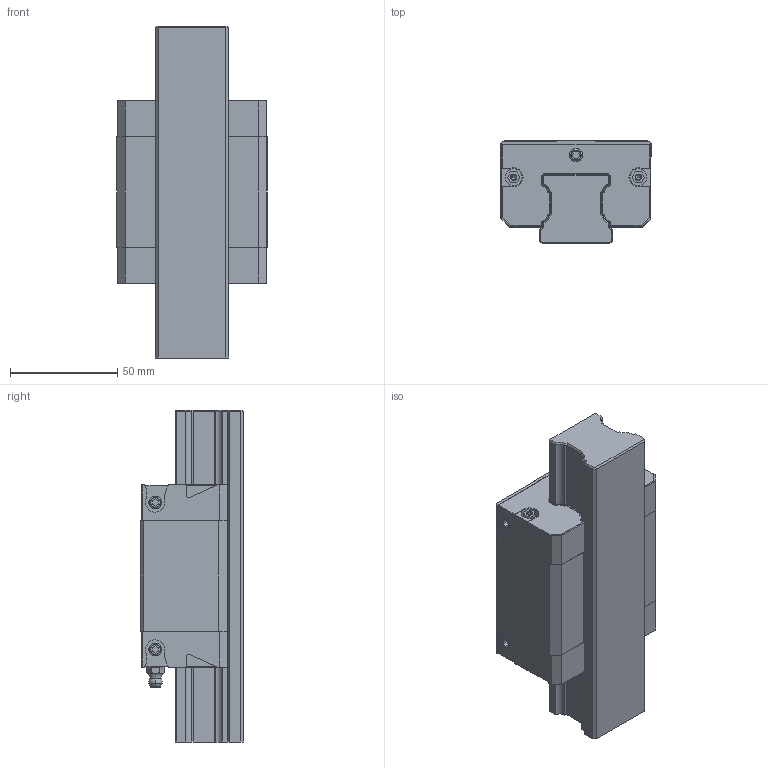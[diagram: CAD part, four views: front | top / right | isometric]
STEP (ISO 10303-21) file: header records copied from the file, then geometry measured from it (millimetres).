
FILE_DESCRIPTION((''),'2;1');
FILE_NAME('KWD_035_SKS_CS__ASM','2021-10-14T07:15:40',('ac91sw'),(''),'CREO PARAMETRIC BY PTC INC, 2020044','CREO PARAMETRIC BY PTC INC, 2020044','');
FILE_SCHEMA(('AUTOMOTIVE_DESIGN { 1 0 10303 214 1 1 1 1 }'));
Length unit declared in the file: millimetre
Products named in the file (7): KWD_035_SKS_CS__SKEL; R201030101; R200130102_Z; R343706101_Z; KWD_035_SKS_CS__PSF; R341700802_Z; KWD_035_SKS_CS__ASM
Assembly tree (11 placements, depth 2):
  KWD_035_SKS_CS__ASM
    KWD_035_SKS_CS__SKEL
    R201030101
    R200130102_Z  x2
    R343706101_Z  x5
    KWD_035_SKS_CS__PSF
    R341700802_Z
Bounding box: 70 x 48 x 154.5 mm (x, y, z)
Volume: 293595.5 mm3; surface area: 67363.8 mm2
Topology: 10 solids, 22 shells, 494 faces, 1266 edges, 804 vertices
Faces by surface type: plane 290, cylinder 134, cone 64, torus 4, sphere 2
Entity records: 15926 total; most frequent: CARTESIAN_POINT 1853, DIRECTION 1548, ORIENTED_EDGE 1468, PROPERTY_DEFINITION 824, REPRESENTATION 815, PROPERTY_DEFINITION_REPRESENTATION 815, DESCRIPTIVE_REPRESENTATION_ITEM 758, GENERAL_PROPERTY 750
